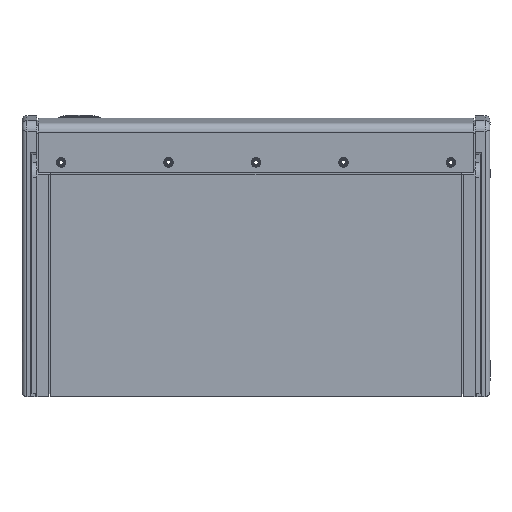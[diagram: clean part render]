
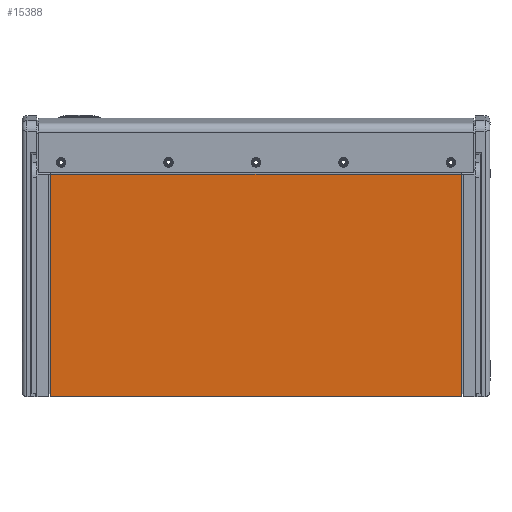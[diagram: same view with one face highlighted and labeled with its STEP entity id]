
A CAD part, front view. The second image highlights one B-rep face of the part: STEP entity #15388.
In plain terms, the highlighted planar face has unit normal (0, -0.999, -0.052) as drawn and (0, 0, -1) by its records, which use the part's own axes.
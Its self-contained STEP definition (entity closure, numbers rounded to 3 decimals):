
#1340 = AXIS2_PLACEMENT_3D ( 'NONE', #24724, #12332, #8330 ) ;
#1812 = CARTESIAN_POINT ( 'NONE',  ( 129.329, 270.256, -18.288 ) ) ;
#2609 = CARTESIAN_POINT ( 'NONE',  ( 129.329, 261.874, -18.288 ) ) ;
#3806 = VECTOR ( 'NONE', #18955, 1000. ) ;
#3956 = DIRECTION ( 'NONE',  ( 0., -1., 0. ) ) ;
#4037 = VECTOR ( 'NONE', #25514, 1000. ) ;
#4923 = CARTESIAN_POINT ( 'NONE',  ( -154.516, -261.874, -18.288 ) ) ;
#7638 = VERTEX_POINT ( 'NONE', #23420 ) ;
#7801 = VERTEX_POINT ( 'NONE', #2609 ) ;
#8330 = DIRECTION ( 'NONE',  ( 1., 0., 0. ) ) ;
#9396 = VERTEX_POINT ( 'NONE', #13041 ) ;
#11107 = LINE ( 'NONE', #21633, #4037 ) ;
#11949 = LINE ( 'NONE', #1812, #24315 ) ;
#12232 = DIRECTION ( 'NONE',  ( 1., 0., 0. ) ) ;
#12275 = EDGE_CURVE ( 'NONE', #9396, #26362, #12822, .T. ) ;
#12332 = DIRECTION ( 'NONE',  ( 0., 0., 1. ) ) ;
#12822 = LINE ( 'NONE', #12953, #3806 ) ;
#12953 = CARTESIAN_POINT ( 'NONE',  ( -154.516, 270.256, -18.288 ) ) ;
#13041 = CARTESIAN_POINT ( 'NONE',  ( -154.516, 261.874, -18.288 ) ) ;
#14248 = LINE ( 'NONE', #22366, #18866 ) ;
#14426 = EDGE_CURVE ( 'NONE', #7801, #7638, #11949, .T. ) ;
#15388 = ADVANCED_FACE ( 'NONE', ( #24596 ), #20450, .F. ) ;
#18866 = VECTOR ( 'NONE', #12232, 1000. ) ;
#18955 = DIRECTION ( 'NONE',  ( 0., -1., 0. ) ) ;
#19915 = EDGE_CURVE ( 'NONE', #9396, #7801, #14248, .T. ) ;
#20400 = ORIENTED_EDGE ( 'NONE', *, *, #19915, .T. ) ;
#20432 = EDGE_CURVE ( 'NONE', #26362, #7638, #11107, .T. ) ;
#20450 = PLANE ( 'NONE',  #1340 ) ;
#20630 = EDGE_LOOP ( 'NONE', ( #20400, #24683, #25922, #24022 ) ) ;
#21633 = CARTESIAN_POINT ( 'NONE',  ( -154.516, -261.874, -18.288 ) ) ;
#22366 = CARTESIAN_POINT ( 'NONE',  ( -154.516, 261.874, -18.288 ) ) ;
#23420 = CARTESIAN_POINT ( 'NONE',  ( 129.329, -261.874, -18.288 ) ) ;
#24022 = ORIENTED_EDGE ( 'NONE', *, *, #12275, .F. ) ;
#24315 = VECTOR ( 'NONE', #3956, 1000. ) ;
#24596 = FACE_OUTER_BOUND ( 'NONE', #20630, .T. ) ;
#24683 = ORIENTED_EDGE ( 'NONE', *, *, #14426, .T. ) ;
#24724 = CARTESIAN_POINT ( 'NONE',  ( 129.329, 270.256, -18.288 ) ) ;
#25514 = DIRECTION ( 'NONE',  ( 1., 0., 0. ) ) ;
#25922 = ORIENTED_EDGE ( 'NONE', *, *, #20432, .F. ) ;
#26362 = VERTEX_POINT ( 'NONE', #4923 ) ;
